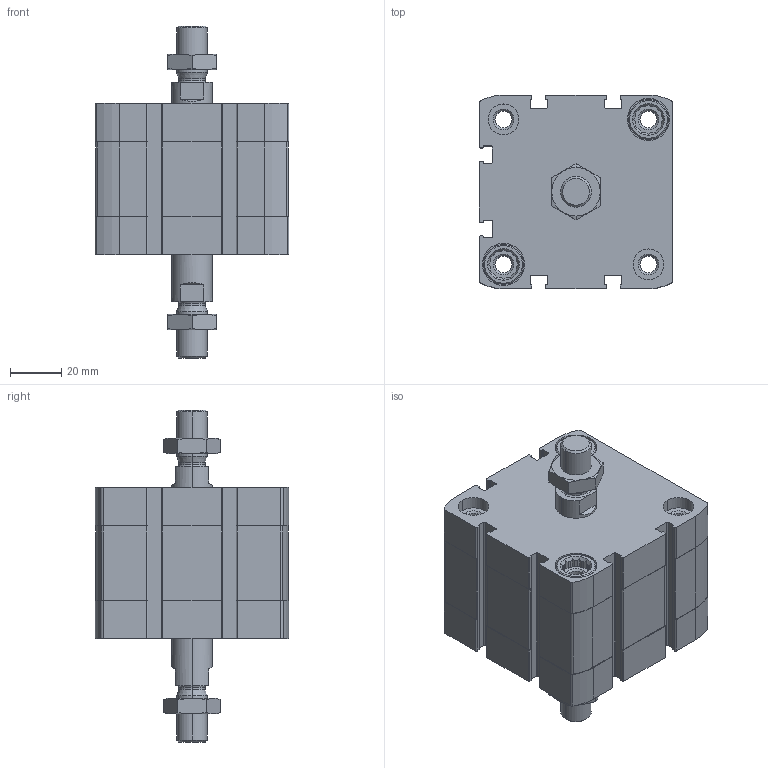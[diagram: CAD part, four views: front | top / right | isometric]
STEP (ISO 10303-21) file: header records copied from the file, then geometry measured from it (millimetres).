
FILE_DESCRIPTION (( 'STEP AP203' ), '1' );
FILE_NAME ('CCN63-10-P.STEP', '2020-06-22T19:00:49', ( '' ), ( '' ), 'SwSTEP 2.0', 'SolidWorks 2019', '' );
FILE_SCHEMA (( 'CONFIG_CONTROL_DESIGN' ));
Length unit declared in the file: millimetre
Products named in the file (1): CCN63-10-P
Bounding box: 75.5 x 75.5 x 129.4 mm (x, y, z)
Volume: 290742.9 mm3; surface area: 70354.2 mm2
Topology: 4 solids, 4 shells, 528 faces, 1396 edges, 908 vertices
Faces by surface type: plane 240, cylinder 220, cone 60, torus 8
Entity records: 17259 total; most frequent: CARTESIAN_POINT 3829, DIRECTION 2850, ORIENTED_EDGE 2792, EDGE_CURVE 1396, AXIS2_PLACEMENT_3D 1049, VERTEX_POINT 908, LINE 752, VECTOR 752
